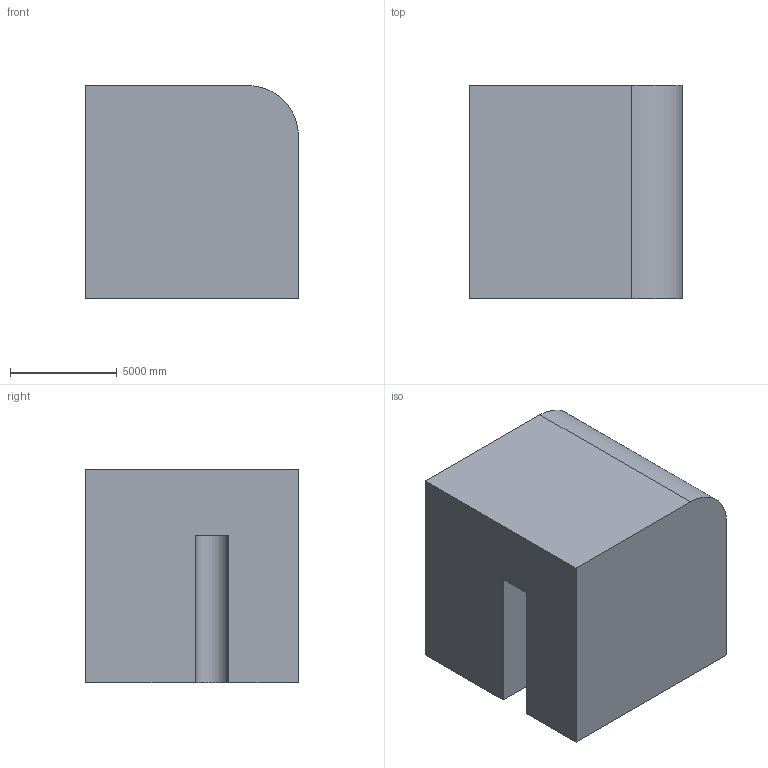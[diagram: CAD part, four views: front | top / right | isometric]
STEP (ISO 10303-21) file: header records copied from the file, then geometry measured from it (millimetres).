
FILE_DESCRIPTION (( 'STEP AP203' ), '1' );
FILE_NAME ('88.STEP', '2022-07-28T13:35:09', ( 'user' ), ( '' ), 'SwSTEP 2.0', 'SolidWorks 2021', '' );
FILE_SCHEMA (( 'CONFIG_CONTROL_DESIGN' ));
Length unit declared in the file: centimetre
Products named in the file (1): 88
Bounding box: 10000 x 10000 x 10000 mm (x, y, z)
Volume: 900852720666.2 mm3; surface area: 696260528.6 mm2
Topology: 1 solids, 1 shells, 11 faces, 27 edges, 18 vertices
Faces by surface type: plane 9, cylinder 2
Entity records: 402 total; most frequent: CARTESIAN_POINT 57, DIRECTION 55, ORIENTED_EDGE 54, EDGE_CURVE 27, VECTOR 23, LINE 23, VERTEX_POINT 18, AXIS2_PLACEMENT_3D 16
